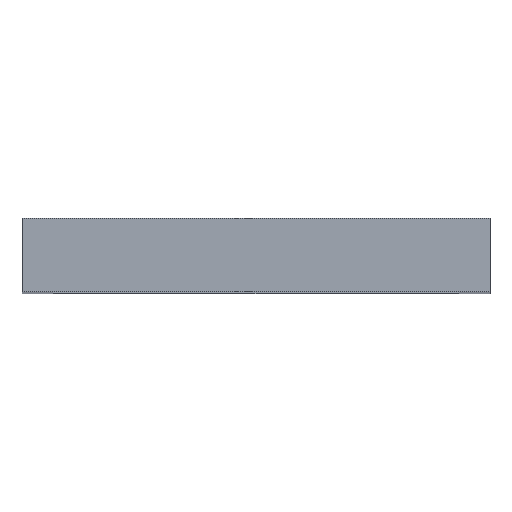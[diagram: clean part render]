
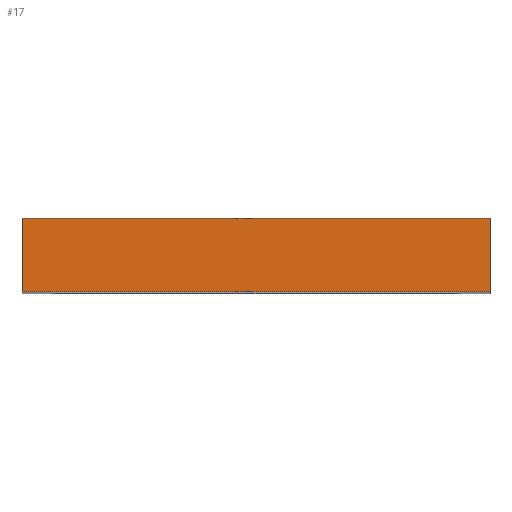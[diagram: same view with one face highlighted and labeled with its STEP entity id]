
A CAD part, top view. The second image highlights one B-rep face of the part: STEP entity #17.
In plain terms, the highlighted planar face has unit normal (0, 0, 1).
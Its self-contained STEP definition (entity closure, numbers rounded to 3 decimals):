
#17 = ADVANCED_FACE('',(#18),#52,.T.);
#18 = FACE_BOUND('',#19,.T.);
#19 = EDGE_LOOP('',(#20,#30,#38,#46));
#20 = ORIENTED_EDGE('',*,*,#21,.F.);
#21 = EDGE_CURVE('',#22,#24,#26,.T.);
#22 = VERTEX_POINT('',#23);
#23 = CARTESIAN_POINT('',(0.,0.,159.8));
#24 = VERTEX_POINT('',#25);
#25 = CARTESIAN_POINT('',(0.,12.,159.8));
#26 = LINE('',#27,#28);
#27 = CARTESIAN_POINT('',(0.,0.,159.8));
#28 = VECTOR('',#29,1.);
#29 = DIRECTION('',(-0.,1.,0.));
#30 = ORIENTED_EDGE('',*,*,#31,.T.);
#31 = EDGE_CURVE('',#22,#32,#34,.T.);
#32 = VERTEX_POINT('',#33);
#33 = CARTESIAN_POINT('',(76.4,0.,159.8));
#34 = LINE('',#35,#36);
#35 = CARTESIAN_POINT('',(0.,0.,159.8));
#36 = VECTOR('',#37,1.);
#37 = DIRECTION('',(1.,0.,-0.));
#38 = ORIENTED_EDGE('',*,*,#39,.T.);
#39 = EDGE_CURVE('',#32,#40,#42,.T.);
#40 = VERTEX_POINT('',#41);
#41 = CARTESIAN_POINT('',(76.4,12.,159.8));
#42 = LINE('',#43,#44);
#43 = CARTESIAN_POINT('',(76.4,0.,159.8));
#44 = VECTOR('',#45,1.);
#45 = DIRECTION('',(-0.,1.,0.));
#46 = ORIENTED_EDGE('',*,*,#47,.F.);
#47 = EDGE_CURVE('',#24,#40,#48,.T.);
#48 = LINE('',#49,#50);
#49 = CARTESIAN_POINT('',(0.,12.,159.8));
#50 = VECTOR('',#51,1.);
#51 = DIRECTION('',(1.,0.,-0.));
#52 = PLANE('',#53);
#53 = AXIS2_PLACEMENT_3D('',#54,#55,#56);
#54 = CARTESIAN_POINT('',(0.,0.,159.8));
#55 = DIRECTION('',(0.,0.,1.));
#56 = DIRECTION('',(1.,0.,-0.));
